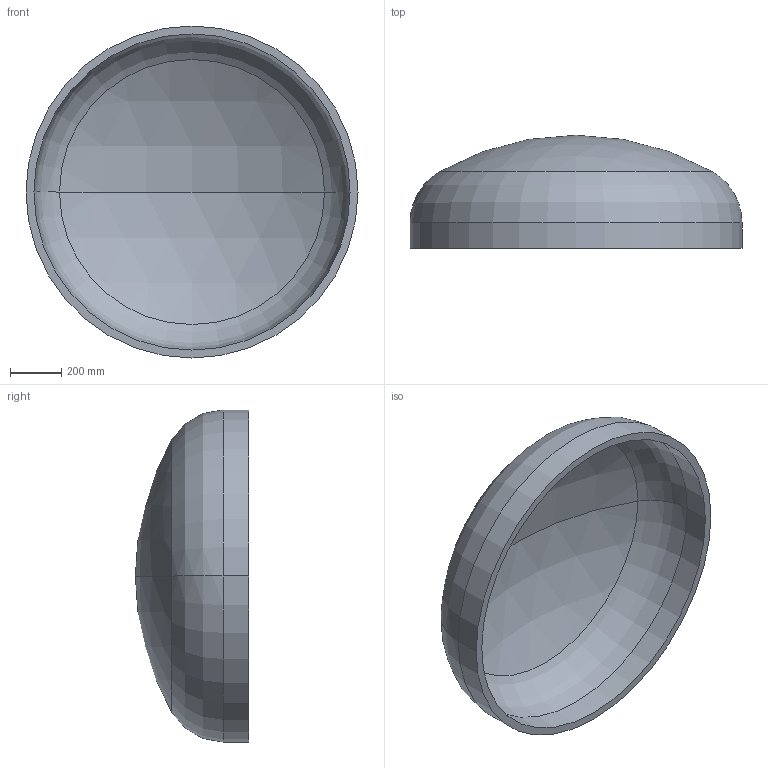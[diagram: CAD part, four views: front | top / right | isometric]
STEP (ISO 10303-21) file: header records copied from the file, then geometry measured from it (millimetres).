
FILE_DESCRIPTION (( 'STEP AP203' ), '1' );
FILE_NAME ('DIN 28013 Korbbogenform_-_Boden DIN 28013 - 1300 x 100 - I - s=31.step', '2016-07-01T09:48:31', ( '' ), ( '' ), 'SwSTEP 2.0', 'SolidWorks 2013', '' );
FILE_SCHEMA (( 'CONFIG_CONTROL_DESIGN' ));
Length unit declared in the file: millimetre
Products named in the file (1): DIN 28013 Korbbogenform_-_Boden DIN 28013 - 1300 x 100 - I - s=31
Bounding box: 1300 x 442.96 x 1300 mm (x, y, z)
Volume: 67579350.5 mm3; surface area: 4485556.6 mm2
Topology: 1 solids, 1 shells, 13 faces, 24 edges, 14 vertices
Faces by surface type: torus 4, cylinder 4, sphere 4, plane 1
Entity records: 407 total; most frequent: DIRECTION 72, CARTESIAN_POINT 52, ORIENTED_EDGE 48, AXIS2_PLACEMENT_3D 34, EDGE_CURVE 24, CIRCLE 20, VERTEX_POINT 14, EDGE_LOOP 14
